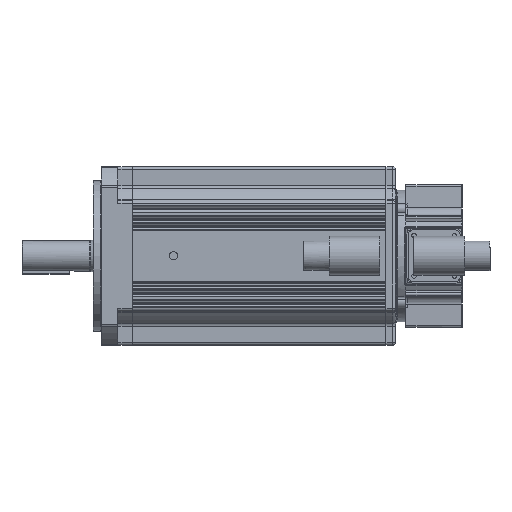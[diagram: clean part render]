
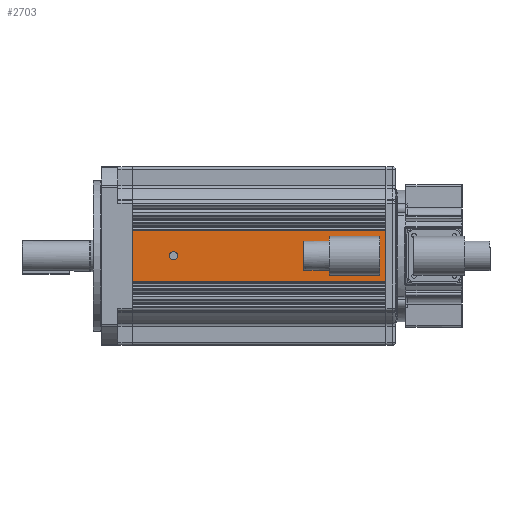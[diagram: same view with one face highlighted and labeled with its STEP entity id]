
A CAD part, top view. The second image highlights one B-rep face of the part: STEP entity #2703.
In plain terms, the highlighted planar face has unit normal (0, 0, 1) as drawn and (0, 1, 0) by its records, which use the part's own axes.
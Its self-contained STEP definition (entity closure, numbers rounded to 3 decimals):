
#2703 = ADVANCED_FACE( '', ( #6232, #6233 ), #6234, .F. );
#6232 = FACE_BOUND( '', #10836, .T. );
#6233 = FACE_OUTER_BOUND( '', #10837, .T. );
#6234 = PLANE( '', #10838 );
#10836 = EDGE_LOOP( '', ( #18217 ) );
#10837 = EDGE_LOOP( '', ( #18218, #18219, #18220, #18221 ) );
#10838 = AXIS2_PLACEMENT_3D( '', #18222, #18223, #18224 );
#18217 = ORIENTED_EDGE( '', *, *, #28063, .T. );
#18218 = ORIENTED_EDGE( '', *, *, #27272, .T. );
#18219 = ORIENTED_EDGE( '', *, *, #26905, .T. );
#18220 = ORIENTED_EDGE( '', *, *, #28257, .T. );
#18221 = ORIENTED_EDGE( '', *, *, #28535, .T. );
#18222 = CARTESIAN_POINT( '', ( 65., 65., 186. ) );
#18223 = DIRECTION( '', ( 0., -1., 0. ) );
#18224 = DIRECTION( '', ( 0., 0., -1. ) );
#26905 = EDGE_CURVE( '', #32359, #32357, #32360, .T. );
#27272 = EDGE_CURVE( '', #32959, #32359, #32960, .T. );
#28063 = EDGE_CURVE( '', #34214, #34214, #34215, .T. );
#28257 = EDGE_CURVE( '', #32357, #34499, #34501, .T. );
#28535 = EDGE_CURVE( '', #34499, #32959, #34893, .T. );
#32357 = VERTEX_POINT( '', #39803 );
#32359 = VERTEX_POINT( '', #39805 );
#32360 = LINE( '', #39806, #39807 );
#32959 = VERTEX_POINT( '', #40586 );
#32960 = LINE( '', #40587, #40588 );
#34214 = VERTEX_POINT( '', #42257 );
#34215 = CIRCLE( '', #42258, 3. );
#34499 = VERTEX_POINT( '', #42650 );
#34501 = LINE( '', #42652, #42653 );
#34893 = LINE( '', #43221, #43222 );
#39803 = CARTESIAN_POINT( '', ( -18.5, 65., 0.5 ) );
#39805 = CARTESIAN_POINT( '', ( 18.5, 65., 0.5 ) );
#39806 = CARTESIAN_POINT( '', ( 65., 65., 0.5 ) );
#39807 = VECTOR( '', #48456, 1000. );
#40586 = CARTESIAN_POINT( '', ( 18.5, 65., 185.5 ) );
#40587 = CARTESIAN_POINT( '', ( 18.5, 65., 186. ) );
#40588 = VECTOR( '', #48998, 1000. );
#42257 = CARTESIAN_POINT( '', ( 0., 65., 27.5 ) );
#42258 = AXIS2_PLACEMENT_3D( '', #50193, #50194, #50195 );
#42650 = CARTESIAN_POINT( '', ( -18.5, 65., 185.5 ) );
#42652 = CARTESIAN_POINT( '', ( -18.5, 65., 186. ) );
#42653 = VECTOR( '', #50469, 1000. );
#43221 = CARTESIAN_POINT( '', ( 65., 65., 185.5 ) );
#43222 = VECTOR( '', #50825, 1000. );
#48456 = DIRECTION( '', ( -1., 0., 0. ) );
#48998 = DIRECTION( '', ( 0., 0., -1. ) );
#50193 = CARTESIAN_POINT( '', ( 0., 65., 30.5 ) );
#50194 = DIRECTION( '', ( 0., -1., 0. ) );
#50195 = DIRECTION( '', ( 0., 0., -1. ) );
#50469 = DIRECTION( '', ( 0., 0., 1. ) );
#50825 = DIRECTION( '', ( 1., 0., 0. ) );
